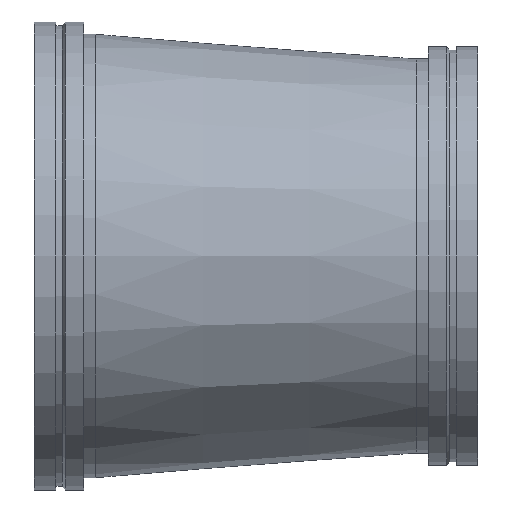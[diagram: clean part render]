
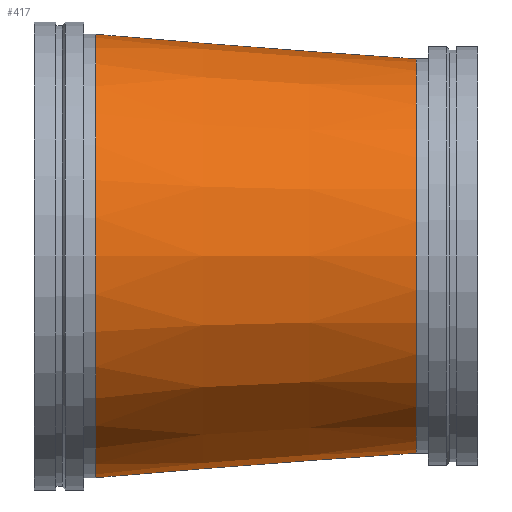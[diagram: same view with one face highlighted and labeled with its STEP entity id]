
A CAD part, front view. The second image highlights one B-rep face of the part: STEP entity #417.
In plain terms, the highlighted conical face has half-angle 4.399 degrees and reference radius 431.8 mm.
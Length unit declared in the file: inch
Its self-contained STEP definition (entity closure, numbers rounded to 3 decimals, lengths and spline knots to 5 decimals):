
#46=CONICAL_SURFACE('',#475,17.,0.077);
#54=LINE('',#739,#68);
#68=VECTOR('',#587,17.);
#101=FACE_OUTER_BOUND('',#124,.T.);
#124=EDGE_LOOP('',(#315,#316,#317,#318,#319,#320));
#155=CIRCLE('',#473,18.);
#156=CIRCLE('',#474,18.);
#157=CIRCLE('',#476,16.);
#158=CIRCLE('',#477,16.);
#195=VERTEX_POINT('',#729);
#196=VERTEX_POINT('',#730);
#197=VERTEX_POINT('',#735);
#198=VERTEX_POINT('',#736);
#239=EDGE_CURVE('',#195,#196,#155,.T.);
#240=EDGE_CURVE('',#196,#195,#156,.T.);
#242=EDGE_CURVE('',#197,#198,#157,.T.);
#243=EDGE_CURVE('',#198,#197,#158,.T.);
#244=EDGE_CURVE('',#198,#196,#54,.T.);
#315=ORIENTED_EDGE('',*,*,#242,.F.);
#316=ORIENTED_EDGE('',*,*,#243,.F.);
#317=ORIENTED_EDGE('',*,*,#244,.T.);
#318=ORIENTED_EDGE('',*,*,#240,.T.);
#319=ORIENTED_EDGE('',*,*,#239,.T.);
#320=ORIENTED_EDGE('',*,*,#244,.F.);
#417=ADVANCED_FACE('',(#101),#46,.T.);
#473=AXIS2_PLACEMENT_3D('',#731,#576,#577);
#474=AXIS2_PLACEMENT_3D('',#732,#578,#579);
#475=AXIS2_PLACEMENT_3D('',#734,#581,#582);
#476=AXIS2_PLACEMENT_3D('',#737,#583,#584);
#477=AXIS2_PLACEMENT_3D('',#738,#585,#586);
#576=DIRECTION('center_axis',(1.,0.,0.));
#577=DIRECTION('ref_axis',(0.,0.,-1.));
#578=DIRECTION('center_axis',(1.,0.,0.));
#579=DIRECTION('ref_axis',(0.,0.,-1.));
#581=DIRECTION('center_axis',(-1.,0.,0.));
#582=DIRECTION('ref_axis',(0.,1.,0.));
#583=DIRECTION('center_axis',(1.,0.,0.));
#584=DIRECTION('ref_axis',(0.,0.,-1.));
#585=DIRECTION('center_axis',(1.,0.,0.));
#586=DIRECTION('ref_axis',(0.,0.,-1.));
#587=DIRECTION('',(-0.997,-0.077,0.));
#729=CARTESIAN_POINT('',(5.,18.,0.));
#730=CARTESIAN_POINT('',(5.,-18.,0.));
#731=CARTESIAN_POINT('Origin',(5.,0.,0.));
#732=CARTESIAN_POINT('Origin',(5.,0.,0.));
#734=CARTESIAN_POINT('Origin',(18.,0.,0.));
#735=CARTESIAN_POINT('',(31.,16.,0.));
#736=CARTESIAN_POINT('',(31.,-16.,0.));
#737=CARTESIAN_POINT('Origin',(31.,0.,0.));
#738=CARTESIAN_POINT('Origin',(31.,0.,0.));
#739=CARTESIAN_POINT('',(18.,-17.,0.));
